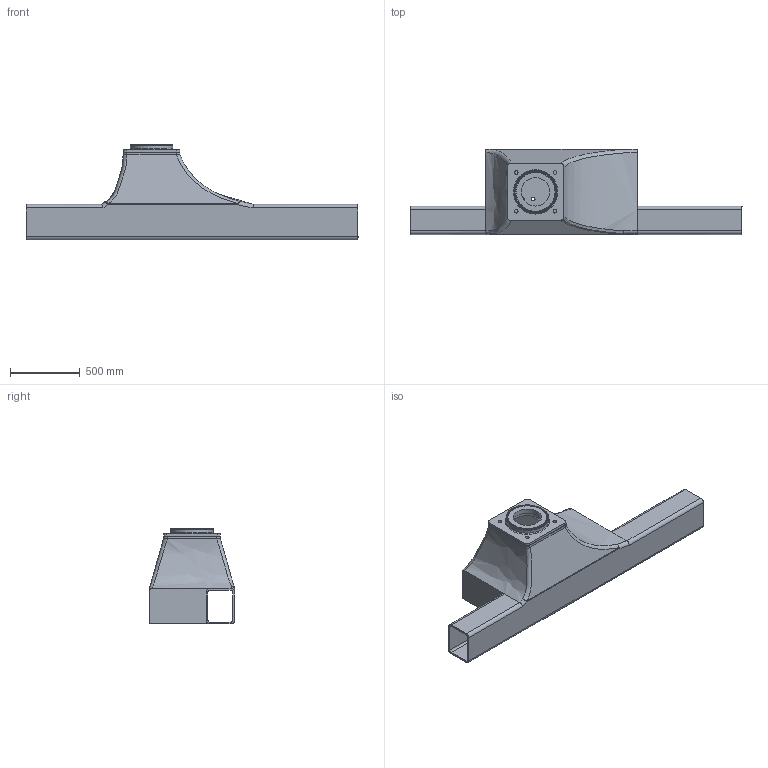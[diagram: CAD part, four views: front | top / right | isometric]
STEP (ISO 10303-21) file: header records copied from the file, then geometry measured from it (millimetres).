
FILE_DESCRIPTION(/* description */ (''),/* implementation_level */ '2;1');
FILE_NAME(/* name */ 'Link0.stp',/* time_stamp */ '2024-03-29T09:19:58+01:00',/* author */ ('JL'),/* organization */ (''),/* preprocessor_version */ 'ST-DEVELOPER v19.2',/* originating_system */ 'Autodesk Inventor 2023',/* authorisation */ '');
FILE_SCHEMA (('AUTOMOTIVE_DESIGN { 1 0 10303 214 3 1 1 }'));
Length unit declared in the file: inch
Products named in the file (1): Link0
Bounding box: 2377.44 x 609.6 x 685.8 mm (x, y, z)
Volume: 81691338.6 mm3; surface area: 8094648 mm2
Topology: 2 solids, 2 shells, 342 faces, 986 edges, 652 vertices
Faces by surface type: bspline 138, cylinder 101, plane 99, torus 2, sphere 2
Full cylindrical faces by diameter (mm): 25.4 x24, 203.2 x1, 254 x2, 304.8 x1
Entity records: 18160 total; most frequent: CARTESIAN_POINT 9663, ORIENTED_EDGE 1972, DIRECTION 1448, EDGE_CURVE 986, VERTEX_POINT 652, AXIS2_PLACEMENT_3D 539, EDGE_LOOP 398, LINE 370
